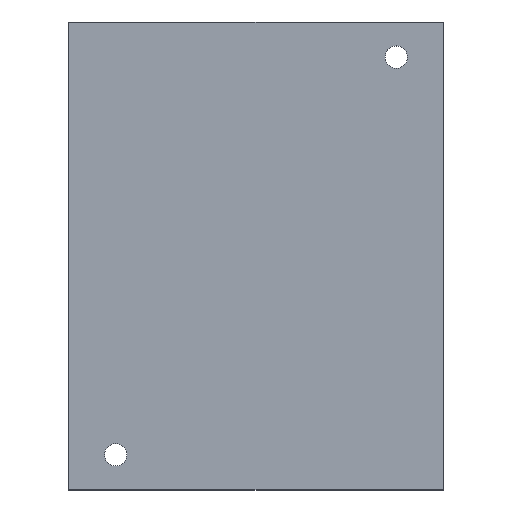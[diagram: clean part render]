
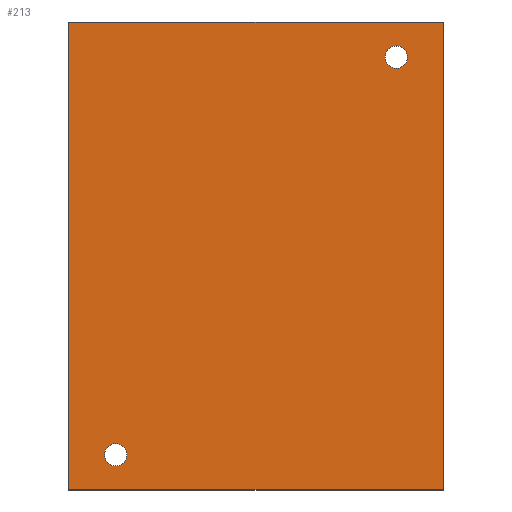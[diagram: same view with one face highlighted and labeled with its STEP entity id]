
A CAD part, top view. The second image highlights one B-rep face of the part: STEP entity #213.
In plain terms, the highlighted planar face has unit normal (0, 0, 1).
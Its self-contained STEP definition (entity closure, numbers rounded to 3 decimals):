
#24 = VERTEX_POINT('',#25);
#25 = CARTESIAN_POINT('',(0.,0.,14.2));
#32 = PLANE('',#33);
#33 = AXIS2_PLACEMENT_3D('',#34,#35,#36);
#34 = CARTESIAN_POINT('',(0.,0.,13.));
#35 = DIRECTION('',(1.,0.,-0.));
#36 = DIRECTION('',(0.,0.,1.));
#44 = PLANE('',#45);
#45 = AXIS2_PLACEMENT_3D('',#46,#47,#48);
#46 = CARTESIAN_POINT('',(0.,0.,13.));
#47 = DIRECTION('',(-0.,1.,0.));
#48 = DIRECTION('',(0.,0.,1.));
#85 = VERTEX_POINT('',#86);
#86 = CARTESIAN_POINT('',(0.,40.,14.2));
#100 = PLANE('',#101);
#101 = AXIS2_PLACEMENT_3D('',#102,#103,#104);
#102 = CARTESIAN_POINT('',(0.,40.,13.));
#103 = DIRECTION('',(-0.,1.,0.));
#104 = DIRECTION('',(0.,0.,1.));
#112 = EDGE_CURVE('',#24,#85,#113,.T.);
#113 = SURFACE_CURVE('',#114,(#118,#125),.PCURVE_S1.);
#114 = LINE('',#115,#116);
#115 = CARTESIAN_POINT('',(0.,0.,14.2));
#116 = VECTOR('',#117,1.);
#117 = DIRECTION('',(-0.,1.,0.));
#118 = PCURVE('',#32,#119);
#119 = DEFINITIONAL_REPRESENTATION('',(#120),#124);
#120 = LINE('',#121,#122);
#121 = CARTESIAN_POINT('',(1.2,0.));
#122 = VECTOR('',#123,1.);
#123 = DIRECTION('',(0.,-1.));
#124 = ( GEOMETRIC_REPRESENTATION_CONTEXT(2) 
PARAMETRIC_REPRESENTATION_CONTEXT() REPRESENTATION_CONTEXT('2D SPACE',''
  ) );
#125 = PCURVE('',#126,#131);
#126 = PLANE('',#127);
#127 = AXIS2_PLACEMENT_3D('',#128,#129,#130);
#128 = CARTESIAN_POINT('',(0.,0.,14.2));
#129 = DIRECTION('',(0.,0.,1.));
#130 = DIRECTION('',(1.,0.,-0.));
#131 = DEFINITIONAL_REPRESENTATION('',(#132),#136);
#132 = LINE('',#133,#134);
#133 = CARTESIAN_POINT('',(0.,0.));
#134 = VECTOR('',#135,1.);
#135 = DIRECTION('',(0.,1.));
#136 = ( GEOMETRIC_REPRESENTATION_CONTEXT(2) 
PARAMETRIC_REPRESENTATION_CONTEXT() REPRESENTATION_CONTEXT('2D SPACE',''
  ) );
#165 = EDGE_CURVE('',#24,#166,#168,.T.);
#166 = VERTEX_POINT('',#167);
#167 = CARTESIAN_POINT('',(32.,0.,14.2));
#168 = SURFACE_CURVE('',#169,(#173,#180),.PCURVE_S1.);
#169 = LINE('',#170,#171);
#170 = CARTESIAN_POINT('',(0.,0.,14.2));
#171 = VECTOR('',#172,1.);
#172 = DIRECTION('',(1.,0.,-0.));
#173 = PCURVE('',#44,#174);
#174 = DEFINITIONAL_REPRESENTATION('',(#175),#179);
#175 = LINE('',#176,#177);
#176 = CARTESIAN_POINT('',(1.2,0.));
#177 = VECTOR('',#178,1.);
#178 = DIRECTION('',(0.,1.));
#179 = ( GEOMETRIC_REPRESENTATION_CONTEXT(2) 
PARAMETRIC_REPRESENTATION_CONTEXT() REPRESENTATION_CONTEXT('2D SPACE',''
  ) );
#180 = PCURVE('',#126,#181);
#181 = DEFINITIONAL_REPRESENTATION('',(#182),#186);
#182 = LINE('',#183,#184);
#183 = CARTESIAN_POINT('',(0.,0.));
#184 = VECTOR('',#185,1.);
#185 = DIRECTION('',(1.,0.));
#186 = ( GEOMETRIC_REPRESENTATION_CONTEXT(2) 
PARAMETRIC_REPRESENTATION_CONTEXT() REPRESENTATION_CONTEXT('2D SPACE',''
  ) );
#202 = PLANE('',#203);
#203 = AXIS2_PLACEMENT_3D('',#204,#205,#206);
#204 = CARTESIAN_POINT('',(32.,0.,13.));
#205 = DIRECTION('',(1.,0.,-0.));
#206 = DIRECTION('',(0.,0.,1.));
#213 = ADVANCED_FACE('',(#214,#262,#293),#126,.T.);
#214 = FACE_BOUND('',#215,.T.);
#215 = EDGE_LOOP('',(#216,#217,#218,#241));
#216 = ORIENTED_EDGE('',*,*,#112,.F.);
#217 = ORIENTED_EDGE('',*,*,#165,.T.);
#218 = ORIENTED_EDGE('',*,*,#219,.T.);
#219 = EDGE_CURVE('',#166,#220,#222,.T.);
#220 = VERTEX_POINT('',#221);
#221 = CARTESIAN_POINT('',(32.,40.,14.2));
#222 = SURFACE_CURVE('',#223,(#227,#234),.PCURVE_S1.);
#223 = LINE('',#224,#225);
#224 = CARTESIAN_POINT('',(32.,0.,14.2));
#225 = VECTOR('',#226,1.);
#226 = DIRECTION('',(-0.,1.,0.));
#227 = PCURVE('',#126,#228);
#228 = DEFINITIONAL_REPRESENTATION('',(#229),#233);
#229 = LINE('',#230,#231);
#230 = CARTESIAN_POINT('',(32.,0.));
#231 = VECTOR('',#232,1.);
#232 = DIRECTION('',(0.,1.));
#233 = ( GEOMETRIC_REPRESENTATION_CONTEXT(2) 
PARAMETRIC_REPRESENTATION_CONTEXT() REPRESENTATION_CONTEXT('2D SPACE',''
  ) );
#234 = PCURVE('',#202,#235);
#235 = DEFINITIONAL_REPRESENTATION('',(#236),#240);
#236 = LINE('',#237,#238);
#237 = CARTESIAN_POINT('',(1.2,0.));
#238 = VECTOR('',#239,1.);
#239 = DIRECTION('',(0.,-1.));
#240 = ( GEOMETRIC_REPRESENTATION_CONTEXT(2) 
PARAMETRIC_REPRESENTATION_CONTEXT() REPRESENTATION_CONTEXT('2D SPACE',''
  ) );
#241 = ORIENTED_EDGE('',*,*,#242,.F.);
#242 = EDGE_CURVE('',#85,#220,#243,.T.);
#243 = SURFACE_CURVE('',#244,(#248,#255),.PCURVE_S1.);
#244 = LINE('',#245,#246);
#245 = CARTESIAN_POINT('',(0.,40.,14.2));
#246 = VECTOR('',#247,1.);
#247 = DIRECTION('',(1.,0.,-0.));
#248 = PCURVE('',#126,#249);
#249 = DEFINITIONAL_REPRESENTATION('',(#250),#254);
#250 = LINE('',#251,#252);
#251 = CARTESIAN_POINT('',(0.,40.));
#252 = VECTOR('',#253,1.);
#253 = DIRECTION('',(1.,0.));
#254 = ( GEOMETRIC_REPRESENTATION_CONTEXT(2) 
PARAMETRIC_REPRESENTATION_CONTEXT() REPRESENTATION_CONTEXT('2D SPACE',''
  ) );
#255 = PCURVE('',#100,#256);
#256 = DEFINITIONAL_REPRESENTATION('',(#257),#261);
#257 = LINE('',#258,#259);
#258 = CARTESIAN_POINT('',(1.2,0.));
#259 = VECTOR('',#260,1.);
#260 = DIRECTION('',(0.,1.));
#261 = ( GEOMETRIC_REPRESENTATION_CONTEXT(2) 
PARAMETRIC_REPRESENTATION_CONTEXT() REPRESENTATION_CONTEXT('2D SPACE',''
  ) );
#262 = FACE_BOUND('',#263,.T.);
#263 = EDGE_LOOP('',(#264));
#264 = ORIENTED_EDGE('',*,*,#265,.F.);
#265 = EDGE_CURVE('',#266,#266,#268,.T.);
#266 = VERTEX_POINT('',#267);
#267 = CARTESIAN_POINT('',(4.95,3.,14.2));
#268 = SURFACE_CURVE('',#269,(#274,#281),.PCURVE_S1.);
#269 = CIRCLE('',#270,0.95);
#270 = AXIS2_PLACEMENT_3D('',#271,#272,#273);
#271 = CARTESIAN_POINT('',(4.,3.,14.2));
#272 = DIRECTION('',(0.,0.,1.));
#273 = DIRECTION('',(1.,0.,-0.));
#274 = PCURVE('',#126,#275);
#275 = DEFINITIONAL_REPRESENTATION('',(#276),#280);
#276 = CIRCLE('',#277,0.95);
#277 = AXIS2_PLACEMENT_2D('',#278,#279);
#278 = CARTESIAN_POINT('',(4.,3.));
#279 = DIRECTION('',(1.,0.));
#280 = ( GEOMETRIC_REPRESENTATION_CONTEXT(2) 
PARAMETRIC_REPRESENTATION_CONTEXT() REPRESENTATION_CONTEXT('2D SPACE',''
  ) );
#281 = PCURVE('',#282,#287);
#282 = CYLINDRICAL_SURFACE('',#283,0.95);
#283 = AXIS2_PLACEMENT_3D('',#284,#285,#286);
#284 = CARTESIAN_POINT('',(4.,3.,12.));
#285 = DIRECTION('',(0.,0.,1.));
#286 = DIRECTION('',(1.,0.,-0.));
#287 = DEFINITIONAL_REPRESENTATION('',(#288),#292);
#288 = LINE('',#289,#290);
#289 = CARTESIAN_POINT('',(0.,2.2));
#290 = VECTOR('',#291,1.);
#291 = DIRECTION('',(1.,0.));
#292 = ( GEOMETRIC_REPRESENTATION_CONTEXT(2) 
PARAMETRIC_REPRESENTATION_CONTEXT() REPRESENTATION_CONTEXT('2D SPACE',''
  ) );
#293 = FACE_BOUND('',#294,.T.);
#294 = EDGE_LOOP('',(#295));
#295 = ORIENTED_EDGE('',*,*,#296,.F.);
#296 = EDGE_CURVE('',#297,#297,#299,.T.);
#297 = VERTEX_POINT('',#298);
#298 = CARTESIAN_POINT('',(28.95,37.,14.2));
#299 = SURFACE_CURVE('',#300,(#305,#312),.PCURVE_S1.);
#300 = CIRCLE('',#301,0.95);
#301 = AXIS2_PLACEMENT_3D('',#302,#303,#304);
#302 = CARTESIAN_POINT('',(28.,37.,14.2));
#303 = DIRECTION('',(0.,0.,1.));
#304 = DIRECTION('',(1.,0.,-0.));
#305 = PCURVE('',#126,#306);
#306 = DEFINITIONAL_REPRESENTATION('',(#307),#311);
#307 = CIRCLE('',#308,0.95);
#308 = AXIS2_PLACEMENT_2D('',#309,#310);
#309 = CARTESIAN_POINT('',(28.,37.));
#310 = DIRECTION('',(1.,0.));
#311 = ( GEOMETRIC_REPRESENTATION_CONTEXT(2) 
PARAMETRIC_REPRESENTATION_CONTEXT() REPRESENTATION_CONTEXT('2D SPACE',''
  ) );
#312 = PCURVE('',#313,#318);
#313 = CYLINDRICAL_SURFACE('',#314,0.95);
#314 = AXIS2_PLACEMENT_3D('',#315,#316,#317);
#315 = CARTESIAN_POINT('',(28.,37.,12.));
#316 = DIRECTION('',(0.,0.,1.));
#317 = DIRECTION('',(1.,0.,-0.));
#318 = DEFINITIONAL_REPRESENTATION('',(#319),#323);
#319 = LINE('',#320,#321);
#320 = CARTESIAN_POINT('',(0.,2.2));
#321 = VECTOR('',#322,1.);
#322 = DIRECTION('',(1.,0.));
#323 = ( GEOMETRIC_REPRESENTATION_CONTEXT(2) 
PARAMETRIC_REPRESENTATION_CONTEXT() REPRESENTATION_CONTEXT('2D SPACE',''
  ) );
